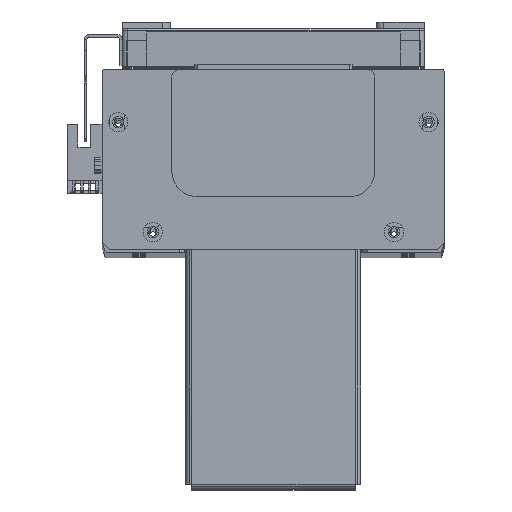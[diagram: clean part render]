
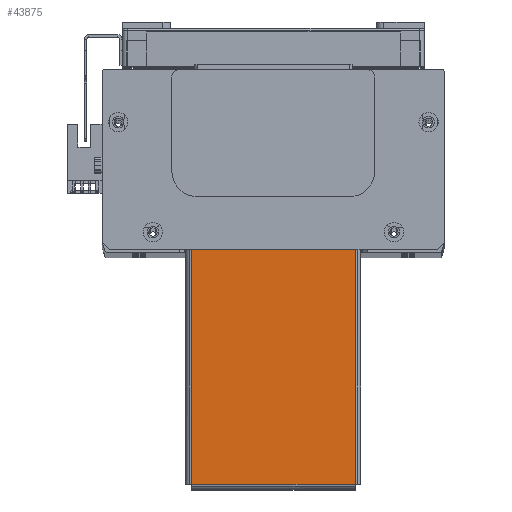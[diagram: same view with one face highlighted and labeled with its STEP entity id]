
A CAD part, top view. The second image highlights one B-rep face of the part: STEP entity #43875.
In plain terms, the highlighted planar face has unit normal (0, 0, 1) as drawn and (0, -1, 0) by its records, which use the part's own axes.
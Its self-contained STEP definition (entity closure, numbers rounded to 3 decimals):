
#9699 = AXIS2_PLACEMENT_3D ( 'NONE', #15267, #15239, #15260 ) ;
#15239 = DIRECTION ( 'NONE',  ( 0., 1., 0. ) ) ;
#15260 = DIRECTION ( 'NONE',  ( 0., 0., 1. ) ) ;
#15267 = CARTESIAN_POINT ( 'NONE',  ( 0., -1.5, 0. ) ) ;
#15269 = PLANE ( 'NONE',  #9699 ) ;
#15532 = FACE_OUTER_BOUND ( 'NONE', #31974, .T. ) ;
#22180 = CARTESIAN_POINT ( 'NONE',  ( -94.763, -1.5, 32.293 ) ) ;
#22201 = DIRECTION ( 'NONE',  ( 0., 0., -1. ) ) ;
#22364 = DIRECTION ( 'NONE',  ( -1., 0., 0. ) ) ;
#22405 = CARTESIAN_POINT ( 'NONE',  ( 94.793, -1.5, 32.263 ) ) ;
#22505 = CARTESIAN_POINT ( 'NONE',  ( -2., -1.5, 34.5 ) ) ;
#22522 = DIRECTION ( 'NONE',  ( 0., 0., -1. ) ) ;
#27203 = VECTOR ( 'NONE', #22522, 1000. ) ;
#27210 = LINE ( 'NONE', #22505, #27203 ) ;
#30447 = DIRECTION ( 'NONE',  ( 1., 0., 0. ) ) ;
#30490 = CARTESIAN_POINT ( 'NONE',  ( -94.793, -1.5, -32.263 ) ) ;
#31974 = EDGE_LOOP ( 'NONE', ( #35100, #35119, #35394, #35252 ) ) ;
#33394 = CARTESIAN_POINT ( 'NONE',  ( -94.763, -1.5, -32.263 ) ) ;
#33401 = CARTESIAN_POINT ( 'NONE',  ( -2., -1.5, -32.263 ) ) ;
#33412 = CARTESIAN_POINT ( 'NONE',  ( -94.763, -1.5, 32.263 ) ) ;
#33444 = CARTESIAN_POINT ( 'NONE',  ( -2., -1.5, 32.263 ) ) ;
#35100 = ORIENTED_EDGE ( 'NONE', *, *, #61986, .T. ) ;
#35119 = ORIENTED_EDGE ( 'NONE', *, *, #62120, .F. ) ;
#35252 = ORIENTED_EDGE ( 'NONE', *, *, #62033, .T. ) ;
#35394 = ORIENTED_EDGE ( 'NONE', *, *, #62090, .T. ) ;
#43875 = ADVANCED_FACE ( 'NONE', ( #15532 ), #15269, .F. ) ;
#48321 = VERTEX_POINT ( 'NONE', #33401 ) ;
#48324 = VERTEX_POINT ( 'NONE', #33412 ) ;
#48341 = VERTEX_POINT ( 'NONE', #33394 ) ;
#48373 = VERTEX_POINT ( 'NONE', #33444 ) ;
#56865 = LINE ( 'NONE', #22180, #56900 ) ;
#56900 = VECTOR ( 'NONE', #22201, 1000. ) ;
#57258 = LINE ( 'NONE', #22405, #57362 ) ;
#57362 = VECTOR ( 'NONE', #22364, 1000. ) ;
#57516 = VECTOR ( 'NONE', #30447, 1000. ) ;
#57553 = LINE ( 'NONE', #30490, #57516 ) ;
#61986 = EDGE_CURVE ( 'NONE', #48341, #48321, #57553, .T. ) ;
#62033 = EDGE_CURVE ( 'NONE', #48324, #48341, #56865, .T. ) ;
#62090 = EDGE_CURVE ( 'NONE', #48373, #48324, #57258, .T. ) ;
#62120 = EDGE_CURVE ( 'NONE', #48373, #48321, #27210, .T. ) ;
